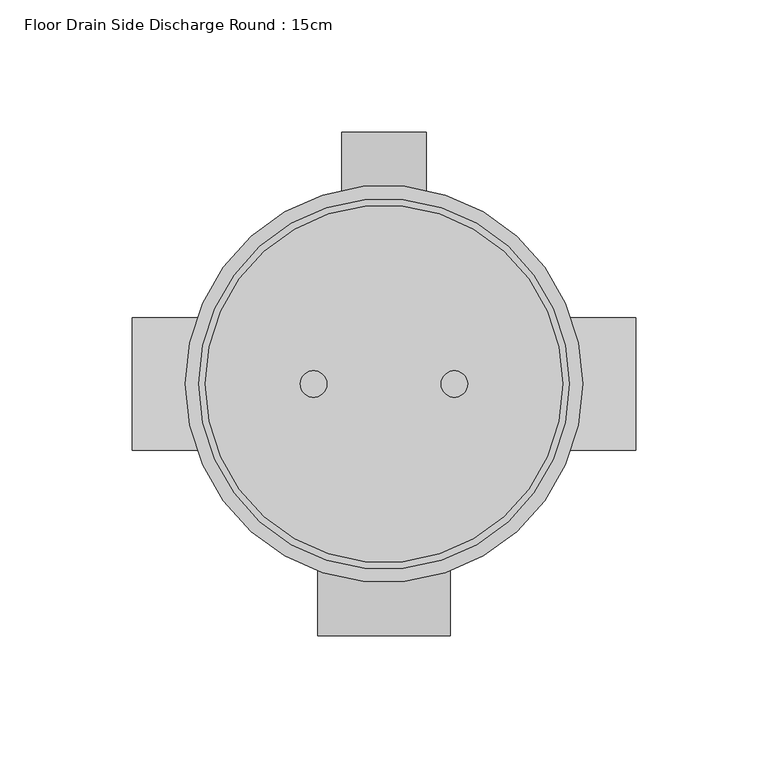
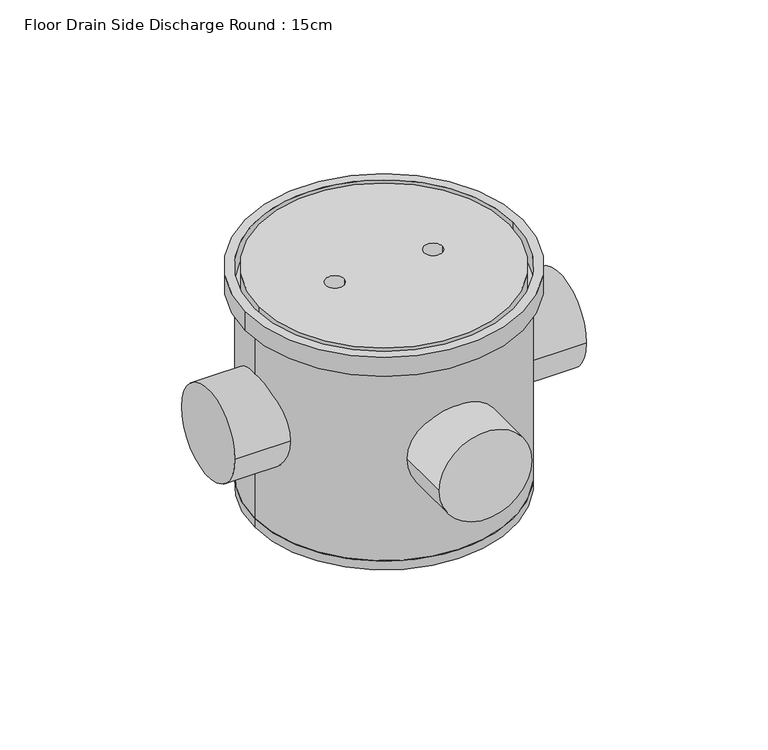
"""IFC4 building model written with IfcOpenShell, lengths in millimetres: flow terminal geometry, Floor Drain Side Discharge Round : 15cm."""

from ifc_helpers import new_model, si_unit, point, frame, frame_2d, origin, place, context, project, spatial, circle_curve, trimmed, segment, composite_curve, outline, extrude, source, transform, mapped, element, save


def floor_drain_side_discharge_round_15cm_01de1a23(model_context):
    return source(origin(), model_context, "Body", "SweptSolid", [
        extrude(outline(composite_curve([segment(trimmed(circle_curve(frame_2d((-62.5, 0.0)), 16.0), [point((-62.5, -16.0))], [point((-62.5, 16.0))], False, "CARTESIAN"), True, "CONTINUOUS"), segment(trimmed(circle_curve(frame_2d((-62.5, 0.0)), 16.0), [point((-62.5, 16.0))], [point((-62.5, -16.0))], False, "CARTESIAN"), True, "CONTINUOUS")], self_intersect=False)), frame((0.0, -43.8731225, 0.0), z_axis=(0.0, 1.0, 0.0), x_axis=(0.0, 0.0, 1.0)), (0.0, 0.0, 1.0), 40.0),
        extrude(outline(composite_curve([segment(trimmed(circle_curve(frame_2d((-98.8731225, -62.5)), 25.0), [point((-123.8731225, -62.5))], [point((-73.8731225, -62.5))], False, "CARTESIAN"), True, "CONTINUOUS"), segment(trimmed(circle_curve(frame_2d((-98.8731225, -62.5)), 25.0), [point((-73.8731225, -62.5))], [point((-123.8731225, -62.5))], False, "CARTESIAN"), True, "CONTINUOUS")], self_intersect=False)), frame((-95.0, 0.0, 0.0), z_axis=(1.0, 0.0, 0.0), x_axis=(0.0, 1.0, 0.0)), (0.0, 0.0, 1.0), 40.0),
        extrude(outline(composite_curve([segment(trimmed(circle_curve(frame_2d((-98.8731225, -62.5)), 25.0), [point((-123.8731225, -62.5))], [point((-73.8731225, -62.5))], False, "CARTESIAN"), True, "CONTINUOUS"), segment(trimmed(circle_curve(frame_2d((-98.8731225, -62.5)), 25.0), [point((-73.8731225, -62.5))], [point((-123.8731225, -62.5))], False, "CARTESIAN"), True, "CONTINUOUS")], self_intersect=False)), frame((55.0, 0.0, 0.0), z_axis=(1.0, 0.0, 0.0), x_axis=(0.0, 1.0, 0.0)), (0.0, 0.0, 1.0), 40.0),
        extrude(outline(composite_curve([segment(trimmed(circle_curve(frame_2d((-62.5, 0.0)), 25.0), [point((-62.5, -25.0))], [point((-62.5, 25.0))], False, "CARTESIAN"), True, "CONTINUOUS"), segment(trimmed(circle_curve(frame_2d((-62.5, 0.0)), 25.0), [point((-62.5, 25.0))], [point((-62.5, -25.0))], False, "CARTESIAN"), True, "CONTINUOUS")], self_intersect=False)), frame((0.0, -193.8731225, 0.0), z_axis=(0.0, 1.0, 0.0), x_axis=(0.0, 0.0, 1.0)), (0.0, 0.0, 1.0), 40.0),
        extrude(outline(composite_curve([segment(trimmed(circle_curve(frame_2d((0.0, -98.8731225)), 75.0), [point((-75.0, -98.8731225))], [point((75.0, -98.8731225))], False, "CARTESIAN"), True, "CONTINUOUS"), segment(trimmed(circle_curve(frame_2d((0.0, -98.8731225)), 75.0), [point((75.0, -98.8731225))], [point((-75.0, -98.8731225))], False, "CARTESIAN"), True, "CONTINUOUS")], self_intersect=False), holes=[composite_curve([segment(trimmed(circle_curve(frame_2d((0.0, -98.8731225)), 70.0), [point((-70.0, -98.8731225))], [point((70.0, -98.8731225))], True, "CARTESIAN"), True, "CONTINUOUS"), segment(trimmed(circle_curve(frame_2d((0.0, -98.8731225)), 70.0), [point((70.0, -98.8731225))], [point((-70.0, -98.8731225))], True, "CARTESIAN"), True, "CONTINUOUS")], self_intersect=False)]), frame((0.0, 0.0, -10.7801662), z_axis=(0.0, 0.0, 1.0), x_axis=(1.0, 0.0, 0.0)), (0.0, 0.0, 1.0), 10.7801662),
        extrude(outline(composite_curve([segment(trimmed(circle_curve(frame_2d((0.0, -98.8731225)), 67.5), [point((-67.5, -98.8731225))], [point((67.5, -98.8731225))], False, "CARTESIAN"), True, "CONTINUOUS"), segment(trimmed(circle_curve(frame_2d((0.0, -98.8731225)), 67.5), [point((67.5, -98.8731225))], [point((-67.5, -98.8731225))], False, "CARTESIAN"), True, "CONTINUOUS")], self_intersect=False), holes=[composite_curve([segment(trimmed(circle_curve(frame_2d((26.5843738, -98.8731225)), 5.0), [point((21.5843738, -98.8731225))], [point((31.5843738, -98.8731225))], True, "CARTESIAN"), True, "CONTINUOUS"), segment(trimmed(circle_curve(frame_2d((26.5843738, -98.8731225)), 5.0), [point((31.5843738, -98.8731225))], [point((21.5843738, -98.8731225))], True, "CARTESIAN"), True, "CONTINUOUS")], self_intersect=False), composite_curve([segment(trimmed(circle_curve(frame_2d((-26.5843738, -98.8731225)), 5.0), [point((-31.5843738, -98.8731225))], [point((-21.5843738, -98.8731225))], True, "CARTESIAN"), True, "CONTINUOUS"), segment(trimmed(circle_curve(frame_2d((-26.5843738, -98.8731225)), 5.0), [point((-21.5843738, -98.8731225))], [point((-31.5843738, -98.8731225))], True, "CARTESIAN"), True, "CONTINUOUS")], self_intersect=False)]), frame((0.0, 0.0, -10.7801662), z_axis=(0.0, 0.0, 1.0), x_axis=(1.0, 0.0, 0.0)), (0.0, 0.0, 1.0), 10.7801662),
        extrude(outline(composite_curve([segment(trimmed(circle_curve(frame_2d((0.0, -98.8731225)), 70.0), [point((70.0, -98.8731225))], [point((-70.0, -98.8731225))], False, "CARTESIAN"), True, "CONTINUOUS"), segment(trimmed(circle_curve(frame_2d((0.0, -98.8731225)), 70.0), [point((-70.0, -98.8731225))], [point((70.0, -98.8731225))], False, "CARTESIAN"), True, "CONTINUOUS")], self_intersect=False)), frame((0.0, 0.0, -125.0), z_axis=(0.0, 0.0, 1.0), x_axis=(1.0, 0.0, 0.0)), (0.0, 0.0, 1.0), 5.0),
        extrude(outline(composite_curve([segment(trimmed(circle_curve(frame_2d((0.0, -98.8731225)), 70.0), [point((-70.0, -98.8731225))], [point((70.0, -98.8731225))], False, "CARTESIAN"), True, "CONTINUOUS"), segment(trimmed(circle_curve(frame_2d((0.0, -98.8731225)), 70.0), [point((70.0, -98.8731225))], [point((-70.0, -98.8731225))], False, "CARTESIAN"), True, "CONTINUOUS")], self_intersect=False), holes=[composite_curve([segment(trimmed(circle_curve(frame_2d((0.0, -98.8731225)), 67.5), [point((-67.5, -98.8731225))], [point((67.5, -98.8731225))], True, "CARTESIAN"), True, "CONTINUOUS"), segment(trimmed(circle_curve(frame_2d((0.0, -98.8731225)), 67.5), [point((67.5, -98.8731225))], [point((-67.5, -98.8731225))], True, "CARTESIAN"), True, "CONTINUOUS")], self_intersect=False)]), frame((0.0, 0.0, -125.0), z_axis=(0.0, 0.0, 1.0), x_axis=(1.0, 0.0, 0.0)), (0.0, 0.0, 1.0), 114.2198338),
    ])


if __name__ == "__main__":
    model = new_model("IFC4")
    model_context = context("Model", 3, world=origin())
    ifc_project = project(units=[si_unit("LENGTHUNIT", "METRE", prefix="MILLI")], contexts=[model_context])
    site = spatial("IfcSite", under=ifc_project)
    building = spatial("IfcBuilding", under=site)
    placement = place(None, origin())
    floor_drain_side_discharge_round_15cm_shape = floor_drain_side_discharge_round_15cm_01de1a23(model_context)
    element("IfcFlowTerminal", 1, ObjectType="Floor Drain Side Discharge Round : 15cm", at=placement, inside=building, context=model_context, shape_type="MappedRepresentation", body=[
        mapped(floor_drain_side_discharge_round_15cm_shape, transform((0.0, 0.0, 0.0), x_axis=(1.0, 0.0, 0.0), y_axis=(0.0, 1.0, 0.0), z_axis=(0.0, 0.0, 1.0))),
    ])
    save(model, "model.ifc")
